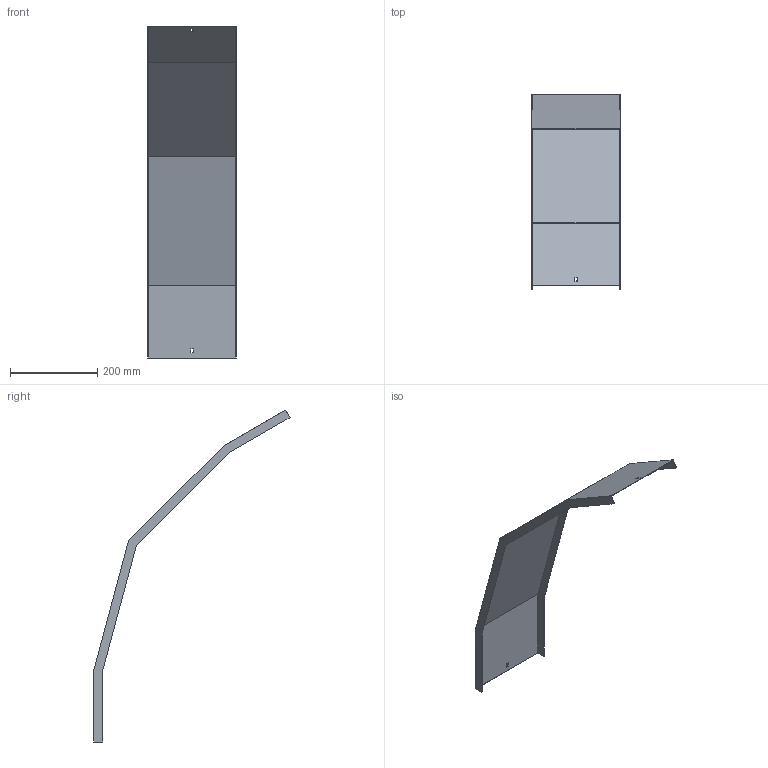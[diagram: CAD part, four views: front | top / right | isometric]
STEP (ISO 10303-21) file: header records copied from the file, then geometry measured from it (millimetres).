
FILE_DESCRIPTION (( 'STEP AP214' ), '1' );
FILE_NAME ('41N5D200.step', '2025-02-21T10:38:02', ( '' ), ( '' ), 'SwSTEP 2.0', 'SolidWorks 2023', '' );
FILE_SCHEMA (( 'AUTOMOTIVE_DESIGN' ));
Length unit declared in the file: millimetre
Products named in the file (1): 41N5D200
Bounding box: 203 x 449.97 x 762.06 mm (x, y, z)
Volume: 339238 mm3; surface area: 455904.7 mm2
Topology: 1 solids, 1 shells, 30 faces, 84 edges, 56 vertices
Faces by surface type: plane 30
Entity records: 979 total; most frequent: CARTESIAN_POINT 171, ORIENTED_EDGE 168, DIRECTION 146, EDGE_CURVE 84, LINE 84, VECTOR 84, VERTEX_POINT 56, EDGE_LOOP 34
